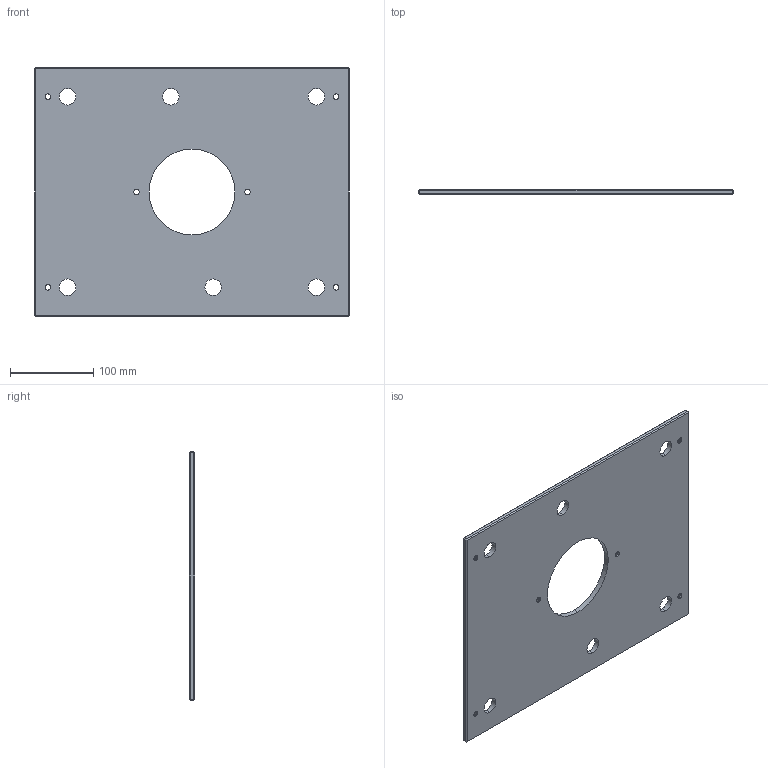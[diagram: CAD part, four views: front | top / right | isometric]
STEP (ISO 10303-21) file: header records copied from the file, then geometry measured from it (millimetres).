
FILE_DESCRIPTION (( 'STEP AP214' ), '1' );
FILE_NAME ('ME-0619-CH-1215-A.STEP', '2020-02-11T11:02:25', ( '' ), ( '' ), 'SwSTEP 2.0', 'SolidWorks 2018', '' );
FILE_SCHEMA (( 'AUTOMOTIVE_DESIGN' ));
Length unit declared in the file: inch
Products named in the file (1): ME-0619-CH-1215-A
Bounding box: 377.82 x 6.35 x 298.45 mm (x, y, z)
Volume: 646241 mm3; surface area: 216311.1 mm2
Topology: 1 solids, 1 shells, 64 faces, 150 edges, 88 vertices
Faces by surface type: cylinder 26, plane 26, cone 12
Entity records: 1902 total; most frequent: DIRECTION 344, CARTESIAN_POINT 303, ORIENTED_EDGE 300, EDGE_CURVE 150, AXIS2_PLACEMENT_3D 129, EDGE_LOOP 90, VERTEX_POINT 88, LINE 86
